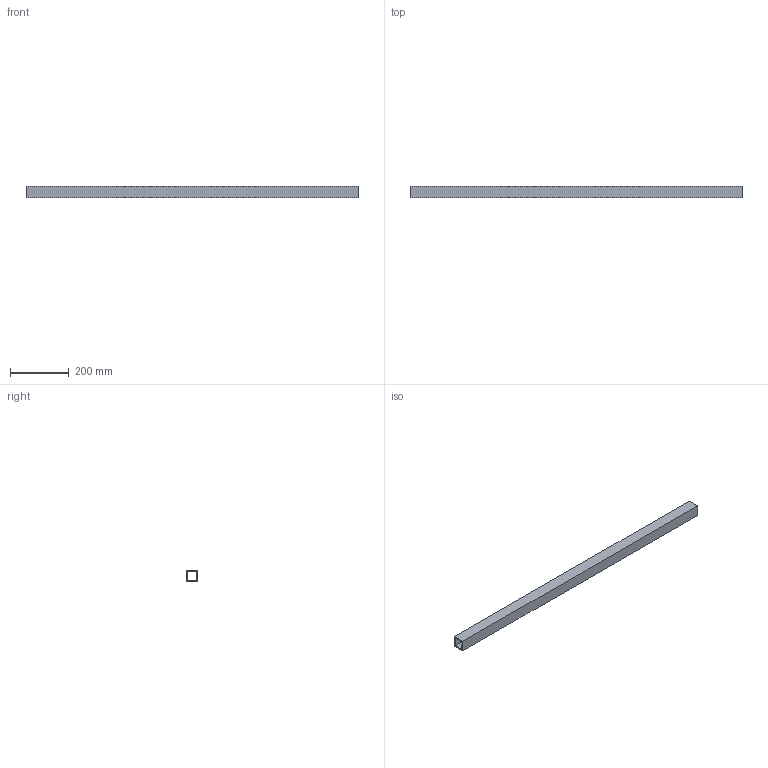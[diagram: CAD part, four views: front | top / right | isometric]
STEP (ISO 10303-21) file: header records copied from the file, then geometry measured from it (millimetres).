
FILE_DESCRIPTION(/* description */ (''),/* implementation_level */ '2;1');
FILE_NAME(/* name */ 'Pos117-Koker 40x40x4 EN 10219-2-S235JRH-8st',/* time_stamp */ '2024-08-06T11:42:42+02:00',/* author */ (''),/* organization */ (''),/* preprocessor_version */ 'ST-DEVELOPER v16.5',/* originating_system */ 'HiCAD 2024 2901.2 Build 361',/* authorisation */ '');
FILE_SCHEMA (('AUTOMOTIVE_DESIGN { 1 0 10303 214 1 1 1 1 }'));
Length unit declared in the file: millimetre
Products named in the file (1): Pos117-Koker 40x40x4 EN 10219-2-S235JRH-8st
Bounding box: 1130 x 40 x 40 mm (x, y, z)
Volume: 650880 mm3; surface area: 326592 mm2
Topology: 1 solids, 1 shells, 10 faces, 24 edges, 16 vertices
Faces by surface type: plane 10
Entity records: 550 total; most frequent: CARTESIAN_POINT 50, PRESENTATION_STYLE_ASSIGNMENT 49, COLOUR_RGB 49, DRAUGHTING_PRE_DEFINED_CURVE_FONT 48, CURVE_STYLE 48, OVER_RIDING_STYLED_ITEM 48, ORIENTED_EDGE 48, DIRECTION 44
